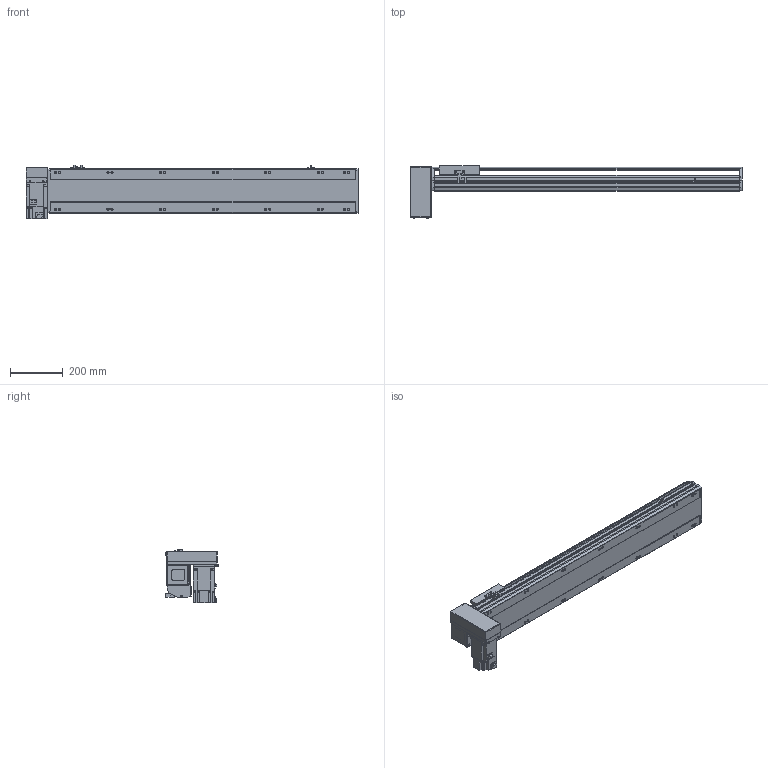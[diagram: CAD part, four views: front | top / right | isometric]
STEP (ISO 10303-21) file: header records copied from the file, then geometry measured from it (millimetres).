
FILE_DESCRIPTION(/* description */ ('STEP AP214'),/* implementation_level */ '2;1');
FILE_NAME(/* name */ 'PBS170-P40-S900-RD-T75-C1-N(0)',/* time_stamp */ '2022-06-08T07:35:01+02:00',/* author */ ('License CC BY-ND 4.0'),/* organization */ ('CADENAS'),/* preprocessor_version */ 'ST-DEVELOPER v18.102',/* originating_system */ 'PARTsolutions',/* authorisation */ ' ');
FILE_SCHEMA (('AUTOMOTIVE_DESIGN {1 0 10303 214 3 1 1}'));
Length unit declared in the file: millimetre
Products named in the file (7): PBS170-P40-S900-RD-T75-C1-N(0); PBS170_sensor; PBS170_plant; PBS170_sliser; T75-p1; PBS170T-RD_motors; PBS170-S900()_body
Assembly tree (8 placements, depth 2):
  PBS170-P40-S900-RD-T75-C1-N(0)
    PBS170_sensor  x3
    PBS170_plant
    PBS170_sliser
    T75-p1
    PBS170T-RD_motors
    PBS170-S900()_body
Bounding box: 1263 x 201 x 205.3 mm (x, y, z)
Volume: 10276813 mm3; surface area: 1354627.6 mm2
Topology: 8 solids, 8 shells, 1066 faces, 2835 edges, 1848 vertices
Faces by surface type: plane 681, cylinder 331, cone 44, sphere 8, torus 2
Full cylindrical faces by diameter (mm): 3.242 x4, 4 x2, 4.4 x4, 4.5 x6, 4.917 x4, 6 x9, 6.647 x22, 7 x2, 7.5 x4, 8 x8, 8.5 x14, 10 x4, 10.5 x14, 11 x2, 30 x2, 40 x1, 70 x1
Entity records: 30660 total; most frequent: CARTESIAN_POINT 5601, DIRECTION 5230, ORIENTED_EDGE 4968, EDGE_CURVE 2484, AXIS2_PLACEMENT_3D 1807, VERTEX_POINT 1706, LINE 1616, VECTOR 1616
